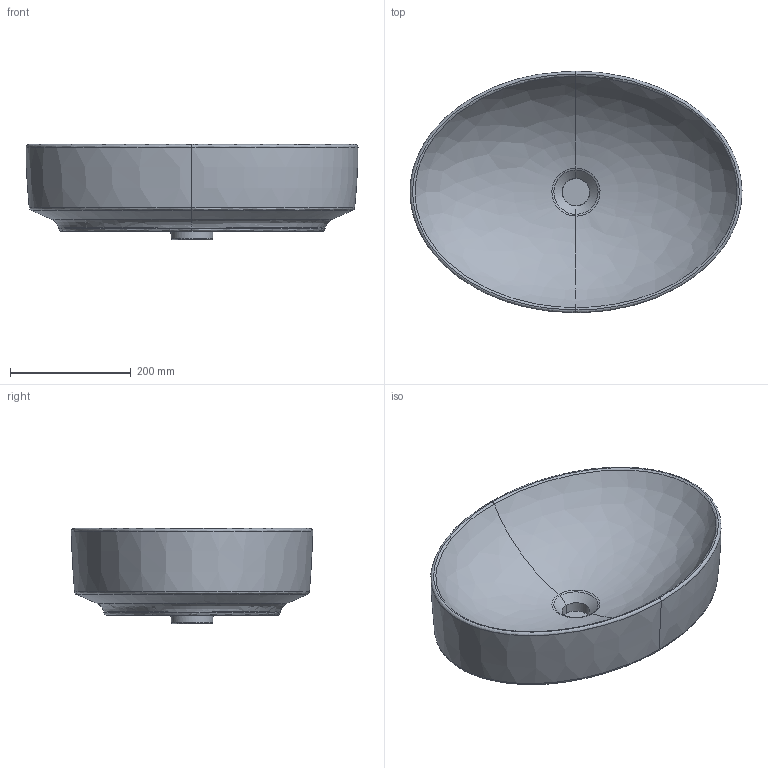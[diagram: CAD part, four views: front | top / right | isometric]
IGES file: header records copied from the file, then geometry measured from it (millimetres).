
Global section: file name: 500771; native system: Autodesk Inventor 2018; preprocessor: unknown; author: JANAN; date: 20200227.110905; units: millimetre
Bounding box: 549.84 x 400 x 158 mm (x, y, z)
Volume: 12193319.4 mm3; surface area: 565958.9 mm2
Topology: 1 solids, 1 shells, 40 faces, 85 edges, 51 vertices
Faces by surface type: bspline 40
